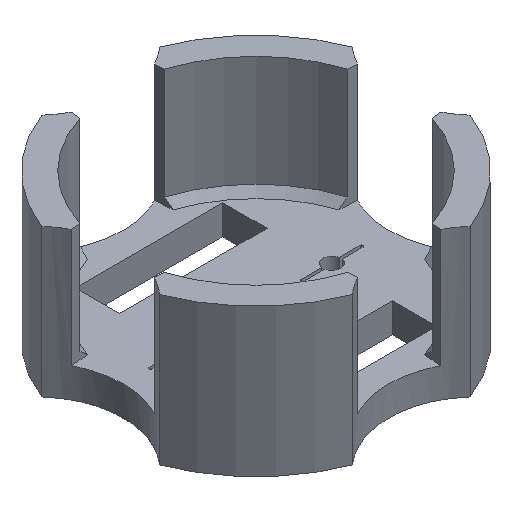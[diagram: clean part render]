
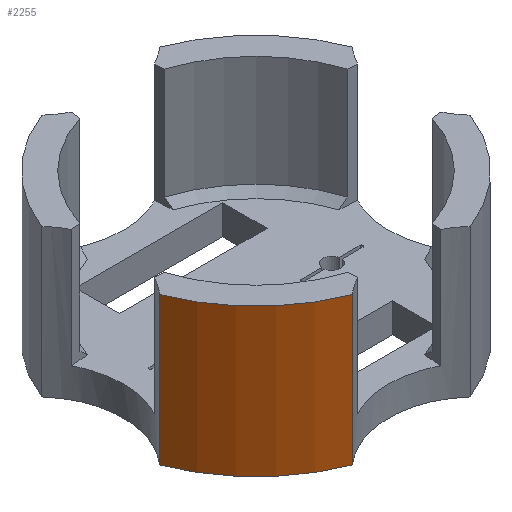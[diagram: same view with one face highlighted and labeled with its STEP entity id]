
A CAD part, isometric view. The second image highlights one B-rep face of the part: STEP entity #2255.
In plain terms, the highlighted cylindrical face has radius 11.249 mm (diameter 22.498 mm), a partial arc.
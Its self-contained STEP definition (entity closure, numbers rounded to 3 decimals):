
#769 = VERTEX_POINT('',#770);
#770 = CARTESIAN_POINT('',(-10.518,-3.989,0.));
#777 = EDGE_CURVE('',#769,#778,#780,.T.);
#778 = VERTEX_POINT('',#779);
#779 = CARTESIAN_POINT('',(-10.518,-3.989,10.));
#780 = LINE('',#781,#782);
#781 = CARTESIAN_POINT('',(-10.518,-3.989,0.));
#782 = VECTOR('',#783,1.);
#783 = DIRECTION('',(0.,0.,1.));
#1375 = VERTEX_POINT('',#1376);
#1376 = CARTESIAN_POINT('',(-3.989,-10.518,10.));
#1383 = EDGE_CURVE('',#1384,#1375,#1386,.T.);
#1384 = VERTEX_POINT('',#1385);
#1385 = CARTESIAN_POINT('',(-3.989,-10.518,0.));
#1386 = LINE('',#1387,#1388);
#1387 = CARTESIAN_POINT('',(-3.989,-10.518,0.));
#1388 = VECTOR('',#1389,1.);
#1389 = DIRECTION('',(0.,0.,1.));
#2194 = EDGE_CURVE('',#769,#1384,#2195,.T.);
#2195 = CIRCLE('',#2196,11.249);
#2196 = AXIS2_PLACEMENT_3D('',#2197,#2198,#2199);
#2197 = CARTESIAN_POINT('',(0.,0.,0.));
#2198 = DIRECTION('',(0.,0.,1.));
#2199 = DIRECTION('',(1.,0.,0.));
#2255 = ADVANCED_FACE('',(#2256),#2268,.T.);
#2256 = FACE_BOUND('',#2257,.F.);
#2257 = EDGE_LOOP('',(#2258,#2259,#2266,#2267));
#2258 = ORIENTED_EDGE('',*,*,#777,.T.);
#2259 = ORIENTED_EDGE('',*,*,#2260,.T.);
#2260 = EDGE_CURVE('',#778,#1375,#2261,.T.);
#2261 = CIRCLE('',#2262,11.249);
#2262 = AXIS2_PLACEMENT_3D('',#2263,#2264,#2265);
#2263 = CARTESIAN_POINT('',(0.,0.,10.));
#2264 = DIRECTION('',(0.,0.,1.));
#2265 = DIRECTION('',(1.,0.,0.));
#2266 = ORIENTED_EDGE('',*,*,#1383,.F.);
#2267 = ORIENTED_EDGE('',*,*,#2194,.F.);
#2268 = CYLINDRICAL_SURFACE('',#2269,11.249);
#2269 = AXIS2_PLACEMENT_3D('',#2270,#2271,#2272);
#2270 = CARTESIAN_POINT('',(0.,0.,0.));
#2271 = DIRECTION('',(-0.,-0.,-1.));
#2272 = DIRECTION('',(1.,0.,0.));
